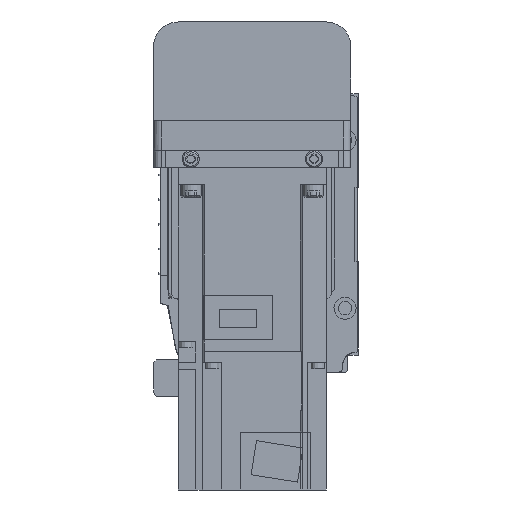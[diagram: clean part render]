
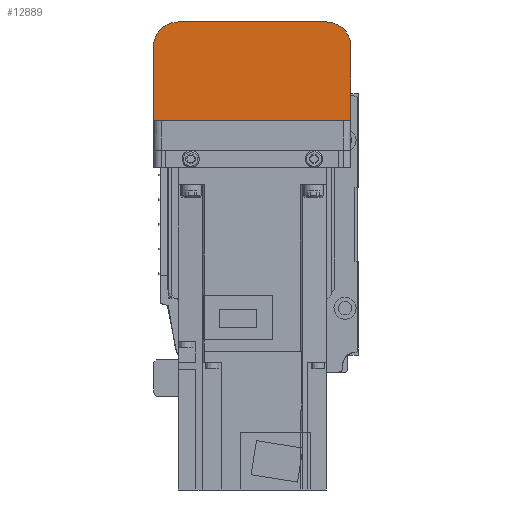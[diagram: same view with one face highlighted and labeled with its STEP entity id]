
A CAD part, left-side view. The second image highlights one B-rep face of the part: STEP entity #12889.
In plain terms, the highlighted planar face has unit normal (-1, 0, 0).
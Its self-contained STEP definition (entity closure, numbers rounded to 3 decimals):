
#507=CIRCLE('',#13885,10.);
#508=CIRCLE('',#13886,10.);
#2212=ORIENTED_EDGE('',*,*,#5199,.F.);
#2213=ORIENTED_EDGE('',*,*,#5200,.F.);
#2214=ORIENTED_EDGE('',*,*,#5201,.F.);
#2215=ORIENTED_EDGE('',*,*,#5202,.F.);
#2216=ORIENTED_EDGE('',*,*,#5203,.F.);
#2217=ORIENTED_EDGE('',*,*,#5204,.F.);
#5199=EDGE_CURVE('',#6799,#6795,#8111,.T.);
#5200=EDGE_CURVE('',#6811,#6799,#8112,.T.);
#5201=EDGE_CURVE('',#6812,#6811,#507,.T.);
#5202=EDGE_CURVE('',#6813,#6812,#8113,.T.);
#5203=EDGE_CURVE('',#6814,#6813,#508,.T.);
#5204=EDGE_CURVE('',#6795,#6814,#8114,.T.);
#6795=VERTEX_POINT('',#20185);
#6799=VERTEX_POINT('',#20195);
#6811=VERTEX_POINT('',#20224);
#6812=VERTEX_POINT('',#20226);
#6813=VERTEX_POINT('',#20228);
#6814=VERTEX_POINT('',#20230);
#8111=LINE('',#20222,#9339);
#8112=LINE('',#20223,#9340);
#8113=LINE('',#20227,#9341);
#8114=LINE('',#20231,#9342);
#9339=VECTOR('',#16210,1000.);
#9340=VECTOR('',#16211,1000.);
#9341=VECTOR('',#16214,1000.);
#9342=VECTOR('',#16217,1000.);
#10394=EDGE_LOOP('',(#2212,#2213,#2214,#2215,#2216,#2217));
#11432=FACE_BOUND('',#10394,.T.);
#12313=PLANE('',#13884);
#12889=ADVANCED_FACE('',(#11432),#12313,.F.);
#13884=AXIS2_PLACEMENT_3D('',#20221,#16208,#16209);
#13885=AXIS2_PLACEMENT_3D('',#20225,#16212,#16213);
#13886=AXIS2_PLACEMENT_3D('',#20229,#16215,#16216);
#16208=DIRECTION('',(1.,0.,0.));
#16209=DIRECTION('',(0.,0.,-1.));
#16210=DIRECTION('',(0.,-1.,0.));
#16211=DIRECTION('',(0.,0.,1.));
#16212=DIRECTION('',(1.,0.,0.));
#16213=DIRECTION('',(0.,0.,-1.));
#16214=DIRECTION('',(0.,1.,0.));
#16215=DIRECTION('',(1.,0.,0.));
#16216=DIRECTION('',(0.,0.,-1.));
#16217=DIRECTION('',(0.,0.,-1.));
#20185=CARTESIAN_POINT('',(-192.,-40.,-12.1));
#20195=CARTESIAN_POINT('',(-192.,40.,-12.1));
#20221=CARTESIAN_POINT('',(-192.,37.,7.));
#20222=CARTESIAN_POINT('',(-192.,50.,-12.1));
#20223=CARTESIAN_POINT('',(-192.,40.,-42.));
#20224=CARTESIAN_POINT('',(-192.,40.,-42.));
#20225=CARTESIAN_POINT('',(-192.,30.,-42.));
#20226=CARTESIAN_POINT('',(-192.,30.,-52.));
#20227=CARTESIAN_POINT('',(-192.,-30.,-52.));
#20228=CARTESIAN_POINT('',(-192.,-30.,-52.));
#20229=CARTESIAN_POINT('',(-192.,-30.,-42.));
#20230=CARTESIAN_POINT('',(-192.,-40.,-42.));
#20231=CARTESIAN_POINT('',(-192.,-40.,-12.1));
